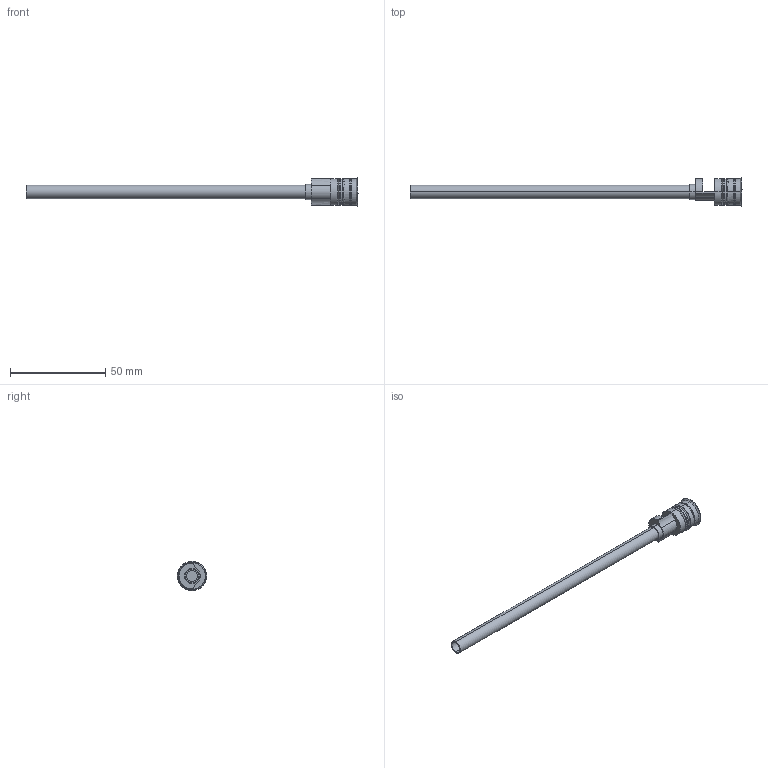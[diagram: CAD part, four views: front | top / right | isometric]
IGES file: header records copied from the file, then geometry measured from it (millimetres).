
Start section: START RECORD GO HERE.
Global section: file name: RF-14Fx150_7.igs; native system: DASSAULT SYSTEMES CATIA V5 R20 - www.3ds.com; preprocessor: CATIA Version 5 Release 20 ; author: Utente; organization: NB04-ASUS; date: 20210223.202930; units: millimetre
Bounding box: 174.5 x 15.3 x 15.3 mm (x, y, z)
Surface area: 7998.9 mm2 (no closed solid volume)
Topology: 0 solids, 0 shells, 73 faces, 408 edges, 408 vertices
Faces by surface type: revolution 47, plane 26
